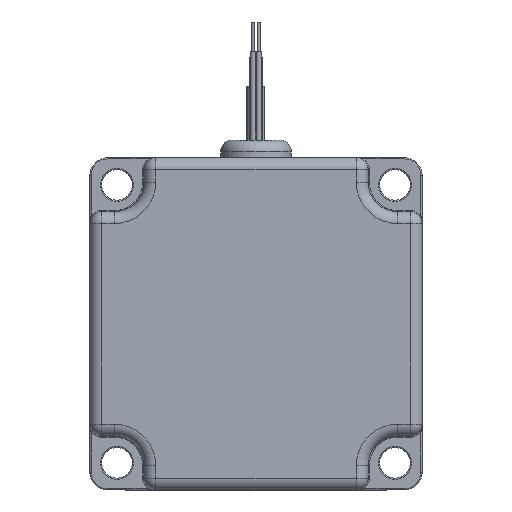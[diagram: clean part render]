
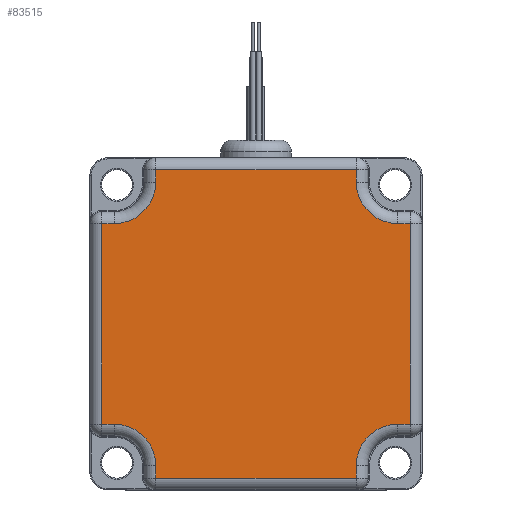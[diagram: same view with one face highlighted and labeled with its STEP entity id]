
A CAD part, front view. The second image highlights one B-rep face of the part: STEP entity #83515.
In plain terms, the highlighted planar face has unit normal (0, -1, 0).
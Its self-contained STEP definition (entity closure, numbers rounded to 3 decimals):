
#8407 = VERTEX_POINT ( 'NONE', #96600 ) ;
#13398 = VERTEX_POINT ( 'NONE', #97622 ) ;
#14806 = CARTESIAN_POINT ( 'NONE',  ( 26.15, -40., 17. ) ) ;
#17289 = LINE ( 'NONE', #126009, #228568 ) ;
#17663 = LINE ( 'NONE', #129270, #227344 ) ;
#19619 = DIRECTION ( 'NONE',  ( 1., 0., 0. ) ) ;
#20221 = EDGE_CURVE ( 'NONE', #95585, #140657, #248318, .T. ) ;
#25210 = ORIENTED_EDGE ( 'NONE', *, *, #193596, .T. ) ;
#25503 = CARTESIAN_POINT ( 'NONE',  ( 17., -40., -26.15 ) ) ;
#32515 = CARTESIAN_POINT ( 'NONE',  ( 28.15, -40., -17. ) ) ;
#32878 = ORIENTED_EDGE ( 'NONE', *, *, #223213, .T. ) ;
#34295 = VECTOR ( 'NONE', #99148, 1000. ) ;
#35861 = AXIS2_PLACEMENT_3D ( 'NONE', #219116, #170098, #105926 ) ;
#38271 = CARTESIAN_POINT ( 'NONE',  ( -17., -40., -26.15 ) ) ;
#38838 = CARTESIAN_POINT ( 'NONE',  ( -24., -40., 24. ) ) ;
#42001 = CARTESIAN_POINT ( 'NONE',  ( 19., -40., -26.15 ) ) ;
#43124 = EDGE_CURVE ( 'NONE', #163826, #64650, #223434, .T. ) ;
#47418 = ORIENTED_EDGE ( 'NONE', *, *, #92829, .T. ) ;
#49081 = CARTESIAN_POINT ( 'NONE',  ( -24., -40., 17. ) ) ;
#51327 = EDGE_CURVE ( 'NONE', #117574, #97378, #155663, .T. ) ;
#52981 = LINE ( 'NONE', #103514, #34295 ) ;
#59949 = CARTESIAN_POINT ( 'NONE',  ( 26.15, -40., 0. ) ) ;
#62004 = DIRECTION ( 'NONE',  ( 0., 0., -1. ) ) ;
#62671 = VECTOR ( 'NONE', #19619, 1000. ) ;
#64650 = VERTEX_POINT ( 'NONE', #286658 ) ;
#65093 = CARTESIAN_POINT ( 'NONE',  ( -17., -40., 0. ) ) ;
#66040 = CARTESIAN_POINT ( 'NONE',  ( -28.15, -40., 17. ) ) ;
#66454 = VECTOR ( 'NONE', #204439, 1000. ) ;
#66602 = AXIS2_PLACEMENT_3D ( 'NONE', #74033, #182780, #257099 ) ;
#71925 = FACE_OUTER_BOUND ( 'NONE', #200075, .T. ) ;
#72843 = LINE ( 'NONE', #165128, #237994 ) ;
#74033 = CARTESIAN_POINT ( 'NONE',  ( -24., -40., -24. ) ) ;
#83515 = ADVANCED_FACE ( 'NONE', ( #71925 ), #162750, .T. ) ;
#85067 = ORIENTED_EDGE ( 'NONE', *, *, #271243, .T. ) ;
#85476 = ORIENTED_EDGE ( 'NONE', *, *, #172410, .T. ) ;
#86526 = DIRECTION ( 'NONE',  ( 0., 0., -1. ) ) ;
#87719 = CARTESIAN_POINT ( 'NONE',  ( -26.15, -40., 17. ) ) ;
#88785 = CARTESIAN_POINT ( 'NONE',  ( -17., -40., -28.15 ) ) ;
#89648 = DIRECTION ( 'NONE',  ( 0., 0., -1. ) ) ;
#92829 = EDGE_CURVE ( 'NONE', #8407, #251853, #239441, .T. ) ;
#95585 = VERTEX_POINT ( 'NONE', #268142 ) ;
#96600 = CARTESIAN_POINT ( 'NONE',  ( 24., -40., -17. ) ) ;
#97378 = VERTEX_POINT ( 'NONE', #286276 ) ;
#97622 = CARTESIAN_POINT ( 'NONE',  ( -26.15, -40., -17. ) ) ;
#98438 = ORIENTED_EDGE ( 'NONE', *, *, #272807, .T. ) ;
#99148 = DIRECTION ( 'NONE',  ( -1., 0., 0. ) ) ;
#99930 = VERTEX_POINT ( 'NONE', #120637 ) ;
#100473 = VECTOR ( 'NONE', #181008, 1000. ) ;
#102434 = DIRECTION ( 'NONE',  ( 1., 0., 0. ) ) ;
#103514 = CARTESIAN_POINT ( 'NONE',  ( 0., -40., 26.15 ) ) ;
#105249 = DIRECTION ( 'NONE',  ( 0., 0., -1. ) ) ;
#105926 = DIRECTION ( 'NONE',  ( 0., 0., -1. ) ) ;
#109288 = CARTESIAN_POINT ( 'NONE',  ( 26.15, -40., -17. ) ) ;
#113755 = VERTEX_POINT ( 'NONE', #87719 ) ;
#117574 = VERTEX_POINT ( 'NONE', #201333 ) ;
#120637 = CARTESIAN_POINT ( 'NONE',  ( -17., -40., 26.15 ) ) ;
#121867 = DIRECTION ( 'NONE',  ( 1., 0., 0. ) ) ;
#124278 = CARTESIAN_POINT ( 'NONE',  ( -24., -40., -17. ) ) ;
#124493 = CARTESIAN_POINT ( 'NONE',  ( 0., -40., 17. ) ) ;
#126009 = CARTESIAN_POINT ( 'NONE',  ( -26.15, -40., -19. ) ) ;
#128292 = AXIS2_PLACEMENT_3D ( 'NONE', #129388, #150287, #236808 ) ;
#129005 = VERTEX_POINT ( 'NONE', #278159 ) ;
#129270 = CARTESIAN_POINT ( 'NONE',  ( 17., -40., 0. ) ) ;
#129388 = CARTESIAN_POINT ( 'NONE',  ( 24., -40., -24. ) ) ;
#137137 = DIRECTION ( 'NONE',  ( 0., 1., 0. ) ) ;
#138780 = AXIS2_PLACEMENT_3D ( 'NONE', #38838, #220534, #86526 ) ;
#140657 = VERTEX_POINT ( 'NONE', #49081 ) ;
#145018 = CIRCLE ( 'NONE', #268610, 7. ) ;
#150287 = DIRECTION ( 'NONE',  ( 0., 1., 0. ) ) ;
#150643 = DIRECTION ( 'NONE',  ( 0., 0., 1. ) ) ;
#155296 = LINE ( 'NONE', #66040, #66454 ) ;
#155663 = LINE ( 'NONE', #201854, #100473 ) ;
#156045 = DIRECTION ( 'NONE',  ( 0., 0., 1. ) ) ;
#157187 = EDGE_CURVE ( 'NONE', #64650, #179789, #201865, .T. ) ;
#157945 = ORIENTED_EDGE ( 'NONE', *, *, #256830, .T. ) ;
#159784 = ORIENTED_EDGE ( 'NONE', *, *, #51327, .T. ) ;
#160253 = ORIENTED_EDGE ( 'NONE', *, *, #271198, .T. ) ;
#161009 = VERTEX_POINT ( 'NONE', #14806 ) ;
#162750 = PLANE ( 'NONE',  #35861 ) ;
#163826 = VERTEX_POINT ( 'NONE', #124278 ) ;
#165128 = CARTESIAN_POINT ( 'NONE',  ( 0., -40., -17. ) ) ;
#165573 = ORIENTED_EDGE ( 'NONE', *, *, #210374, .T. ) ;
#170098 = DIRECTION ( 'NONE',  ( 0., -1., 0. ) ) ;
#172410 = EDGE_CURVE ( 'NONE', #161009, #129005, #260020, .T. ) ;
#173726 = DIRECTION ( 'NONE',  ( 0., 0., -1. ) ) ;
#179789 = VERTEX_POINT ( 'NONE', #38271 ) ;
#181008 = DIRECTION ( 'NONE',  ( 0., 0., 1. ) ) ;
#182780 = DIRECTION ( 'NONE',  ( 0., 1., 0. ) ) ;
#193596 = EDGE_CURVE ( 'NONE', #99930, #95585, #199044, .T. ) ;
#194622 = ORIENTED_EDGE ( 'NONE', *, *, #203832, .T. ) ;
#198283 = VERTEX_POINT ( 'NONE', #291529 ) ;
#199044 = LINE ( 'NONE', #65093, #247547 ) ;
#200075 = EDGE_LOOP ( 'NONE', ( #223044, #255172, #98438, #165573, #47418, #160253, #85476, #85067, #159784, #241436, #25210, #214754, #194622, #157945, #32878, #215618 ) ) ;
#201333 = CARTESIAN_POINT ( 'NONE',  ( 17., -40., 24. ) ) ;
#201854 = CARTESIAN_POINT ( 'NONE',  ( 17., -40., 28.15 ) ) ;
#201865 = LINE ( 'NONE', #88785, #263798 ) ;
#203832 = EDGE_CURVE ( 'NONE', #140657, #113755, #155296, .T. ) ;
#204439 = DIRECTION ( 'NONE',  ( -1., 0., 0. ) ) ;
#210374 = EDGE_CURVE ( 'NONE', #198283, #8407, #228286, .T. ) ;
#214754 = ORIENTED_EDGE ( 'NONE', *, *, #20221, .T. ) ;
#215385 = DIRECTION ( 'NONE',  ( -1., 0., 0. ) ) ;
#215618 = ORIENTED_EDGE ( 'NONE', *, *, #43124, .T. ) ;
#219116 = CARTESIAN_POINT ( 'NONE',  ( 0., -40., 0. ) ) ;
#220534 = DIRECTION ( 'NONE',  ( 0., 1., 0. ) ) ;
#221188 = VECTOR ( 'NONE', #150643, 1000. ) ;
#223044 = ORIENTED_EDGE ( 'NONE', *, *, #157187, .T. ) ;
#223213 = EDGE_CURVE ( 'NONE', #13398, #163826, #72843, .T. ) ;
#223434 = CIRCLE ( 'NONE', #66602, 7. ) ;
#227344 = VECTOR ( 'NONE', #156045, 1000. ) ;
#228286 = CIRCLE ( 'NONE', #128292, 7. ) ;
#228568 = VECTOR ( 'NONE', #173726, 1000. ) ;
#236808 = DIRECTION ( 'NONE',  ( 0., 0., -1. ) ) ;
#237994 = VECTOR ( 'NONE', #121867, 1000. ) ;
#239094 = EDGE_CURVE ( 'NONE', #97378, #99930, #52981, .T. ) ;
#239441 = LINE ( 'NONE', #32515, #279211 ) ;
#241436 = ORIENTED_EDGE ( 'NONE', *, *, #239094, .T. ) ;
#246002 = LINE ( 'NONE', #42001, #62671 ) ;
#247547 = VECTOR ( 'NONE', #105249, 1000. ) ;
#248318 = CIRCLE ( 'NONE', #138780, 7. ) ;
#251853 = VERTEX_POINT ( 'NONE', #109288 ) ;
#255172 = ORIENTED_EDGE ( 'NONE', *, *, #277891, .T. ) ;
#256830 = EDGE_CURVE ( 'NONE', #113755, #13398, #17289, .T. ) ;
#257099 = DIRECTION ( 'NONE',  ( 0., 0., -1. ) ) ;
#260020 = LINE ( 'NONE', #124493, #276791 ) ;
#263798 = VECTOR ( 'NONE', #62004, 1000. ) ;
#268142 = CARTESIAN_POINT ( 'NONE',  ( -17., -40., 24. ) ) ;
#268610 = AXIS2_PLACEMENT_3D ( 'NONE', #271227, #137137, #89648 ) ;
#271198 = EDGE_CURVE ( 'NONE', #251853, #161009, #290574, .T. ) ;
#271227 = CARTESIAN_POINT ( 'NONE',  ( 24., -40., 24. ) ) ;
#271243 = EDGE_CURVE ( 'NONE', #129005, #117574, #145018, .T. ) ;
#271253 = VERTEX_POINT ( 'NONE', #25503 ) ;
#272807 = EDGE_CURVE ( 'NONE', #271253, #198283, #17663, .T. ) ;
#276791 = VECTOR ( 'NONE', #215385, 1000. ) ;
#277891 = EDGE_CURVE ( 'NONE', #179789, #271253, #246002, .T. ) ;
#278159 = CARTESIAN_POINT ( 'NONE',  ( 24., -40., 17. ) ) ;
#279211 = VECTOR ( 'NONE', #102434, 1000. ) ;
#286276 = CARTESIAN_POINT ( 'NONE',  ( 17., -40., 26.15 ) ) ;
#286658 = CARTESIAN_POINT ( 'NONE',  ( -17., -40., -24. ) ) ;
#290574 = LINE ( 'NONE', #59949, #221188 ) ;
#291529 = CARTESIAN_POINT ( 'NONE',  ( 17., -40., -24. ) ) ;
